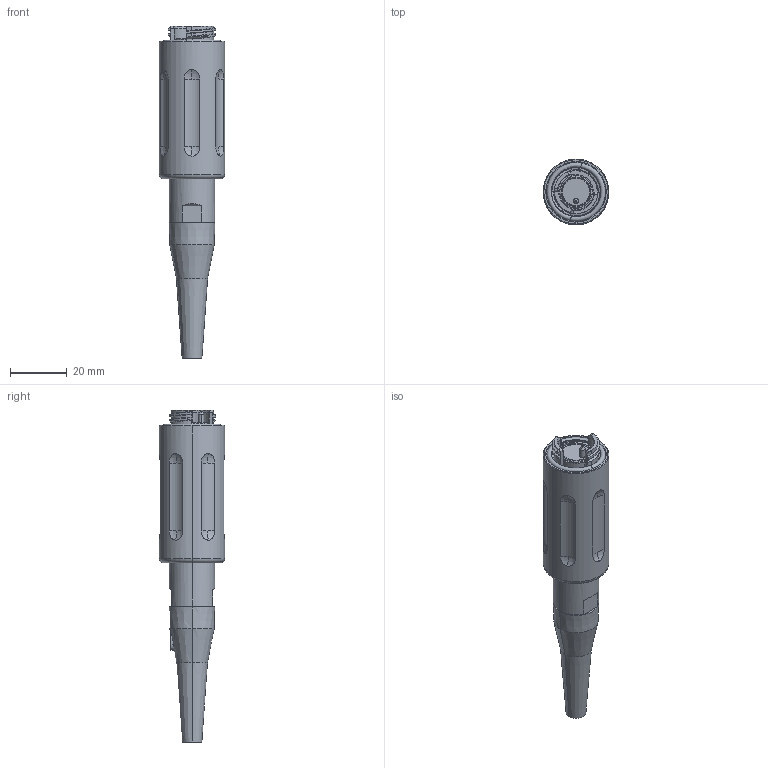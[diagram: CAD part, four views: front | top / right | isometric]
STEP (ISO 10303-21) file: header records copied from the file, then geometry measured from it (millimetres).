
FILE_DESCRIPTION (( 'STEP AP214' ), '1' );
FILE_NAME ('QMICRO-PEEX-XXXX-SXX.STEP', '2025-05-02T23:43:16', ( '' ), ( '' ), 'SwSTEP 2.0', 'SolidWorks 2024', '' );
FILE_SCHEMA (( 'AUTOMOTIVE_DESIGN' ));
Length unit declared in the file: inch
Products named in the file (1): QMICRO-PEEX-XXXX-SXX
Bounding box: 23.15 x 23.15 x 117.08 mm (x, y, z)
Volume: 26317.9 mm3; surface area: 9474.4 mm2
Topology: 1 solids, 6 shells, 266 faces, 663 edges, 425 vertices
Faces by surface type: cylinder 90, cone 63, plane 52, sphere 24, bspline 20, torus 17
Entity records: 11802 total; most frequent: CARTESIAN_POINT 5733, ORIENTED_EDGE 1326, DIRECTION 1211, EDGE_CURVE 663, AXIS2_PLACEMENT_3D 501, VERTEX_POINT 425, EDGE_LOOP 290, FACE_OUTER_BOUND 266
